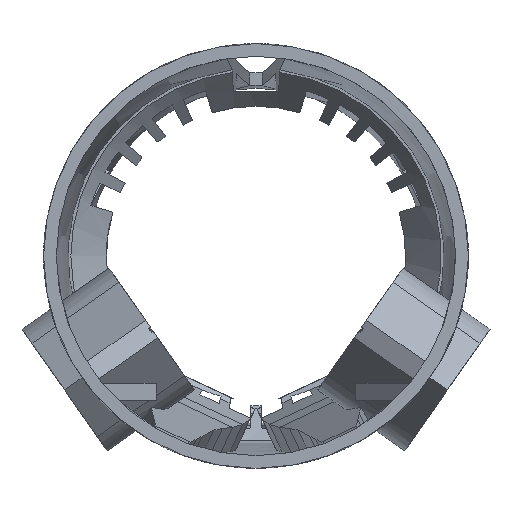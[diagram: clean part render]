
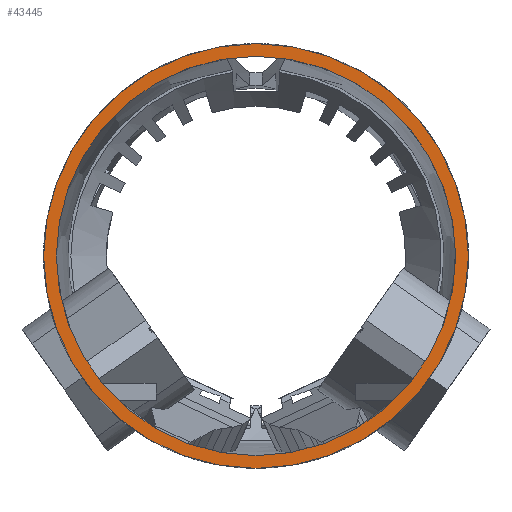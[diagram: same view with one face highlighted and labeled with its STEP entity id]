
A CAD part, left-side view. The second image highlights one B-rep face of the part: STEP entity #43445.
In plain terms, the highlighted planar face has unit normal (-1, 0, 0).
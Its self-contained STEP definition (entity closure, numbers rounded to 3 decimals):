
#21 = EDGE_CURVE('',#22,#22,#24,.T.);
#22 = VERTEX_POINT('',#23);
#23 = CARTESIAN_POINT('',(350.,20.,0.));
#24 = SURFACE_CURVE('',#25,(#30,#42),.PCURVE_S1.);
#25 = CIRCLE('',#26,20.);
#26 = AXIS2_PLACEMENT_3D('',#27,#28,#29);
#27 = CARTESIAN_POINT('',(350.,0.,0.));
#28 = DIRECTION('',(1.,0.,0.));
#29 = DIRECTION('',(-0.,1.,0.));
#30 = PCURVE('',#31,#36);
#31 = CYLINDRICAL_SURFACE('',#32,20.);
#32 = AXIS2_PLACEMENT_3D('',#33,#34,#35);
#33 = CARTESIAN_POINT('',(42.,0.,0.));
#34 = DIRECTION('',(1.,0.,0.));
#35 = DIRECTION('',(-0.,1.,0.));
#36 = DEFINITIONAL_REPRESENTATION('',(#37),#41);
#37 = LINE('',#38,#39);
#38 = CARTESIAN_POINT('',(0.,308.));
#39 = VECTOR('',#40,1.);
#40 = DIRECTION('',(1.,0.));
#41 = ( GEOMETRIC_REPRESENTATION_CONTEXT(2) 
PARAMETRIC_REPRESENTATION_CONTEXT() REPRESENTATION_CONTEXT('2D SPACE',''
  ) );
#42 = PCURVE('',#43,#48);
#43 = PLANE('',#44);
#44 = AXIS2_PLACEMENT_3D('',#45,#46,#47);
#45 = CARTESIAN_POINT('',(350.,-60.,-120.));
#46 = DIRECTION('',(1.,0.,-0.));
#47 = DIRECTION('',(0.,0.,1.));
#48 = DEFINITIONAL_REPRESENTATION('',(#49),#53);
#49 = CIRCLE('',#50,20.);
#50 = AXIS2_PLACEMENT_2D('',#51,#52);
#51 = CARTESIAN_POINT('',(120.,-60.));
#52 = DIRECTION('',(0.,-1.));
#53 = ( GEOMETRIC_REPRESENTATION_CONTEXT(2) 
PARAMETRIC_REPRESENTATION_CONTEXT() REPRESENTATION_CONTEXT('2D SPACE',''
  ) );
#8123 = CYLINDRICAL_SURFACE('',#8124,18.8);
#8124 = AXIS2_PLACEMENT_3D('',#8125,#8126,#8127);
#8125 = CARTESIAN_POINT('',(42.,0.,0.));
#8126 = DIRECTION('',(1.,0.,0.));
#8127 = DIRECTION('',(-0.,1.,0.));
#8182 = EDGE_CURVE('',#8183,#8183,#8185,.T.);
#8183 = VERTEX_POINT('',#8184);
#8184 = CARTESIAN_POINT('',(350.,18.8,0.));
#8185 = SURFACE_CURVE('',#8186,(#8191,#8198),.PCURVE_S1.);
#8186 = CIRCLE('',#8187,18.8);
#8187 = AXIS2_PLACEMENT_3D('',#8188,#8189,#8190);
#8188 = CARTESIAN_POINT('',(350.,0.,0.));
#8189 = DIRECTION('',(1.,0.,0.));
#8190 = DIRECTION('',(-0.,1.,0.));
#8191 = PCURVE('',#8123,#8192);
#8192 = DEFINITIONAL_REPRESENTATION('',(#8193),#8197);
#8193 = LINE('',#8194,#8195);
#8194 = CARTESIAN_POINT('',(0.,308.));
#8195 = VECTOR('',#8196,1.);
#8196 = DIRECTION('',(1.,0.));
#8197 = ( GEOMETRIC_REPRESENTATION_CONTEXT(2) 
PARAMETRIC_REPRESENTATION_CONTEXT() REPRESENTATION_CONTEXT('2D SPACE',''
  ) );
#8198 = PCURVE('',#43,#8199);
#8199 = DEFINITIONAL_REPRESENTATION('',(#8200),#8204);
#8200 = CIRCLE('',#8201,18.8);
#8201 = AXIS2_PLACEMENT_2D('',#8202,#8203);
#8202 = CARTESIAN_POINT('',(120.,-60.));
#8203 = DIRECTION('',(0.,-1.));
#8204 = ( GEOMETRIC_REPRESENTATION_CONTEXT(2) 
PARAMETRIC_REPRESENTATION_CONTEXT() REPRESENTATION_CONTEXT('2D SPACE',''
  ) );
#43445 = ADVANCED_FACE('',(#43446,#43449),#43,.F.);
#43446 = FACE_BOUND('',#43447,.F.);
#43447 = EDGE_LOOP('',(#43448));
#43448 = ORIENTED_EDGE('',*,*,#21,.T.);
#43449 = FACE_BOUND('',#43450,.F.);
#43450 = EDGE_LOOP('',(#43451));
#43451 = ORIENTED_EDGE('',*,*,#8182,.F.);
